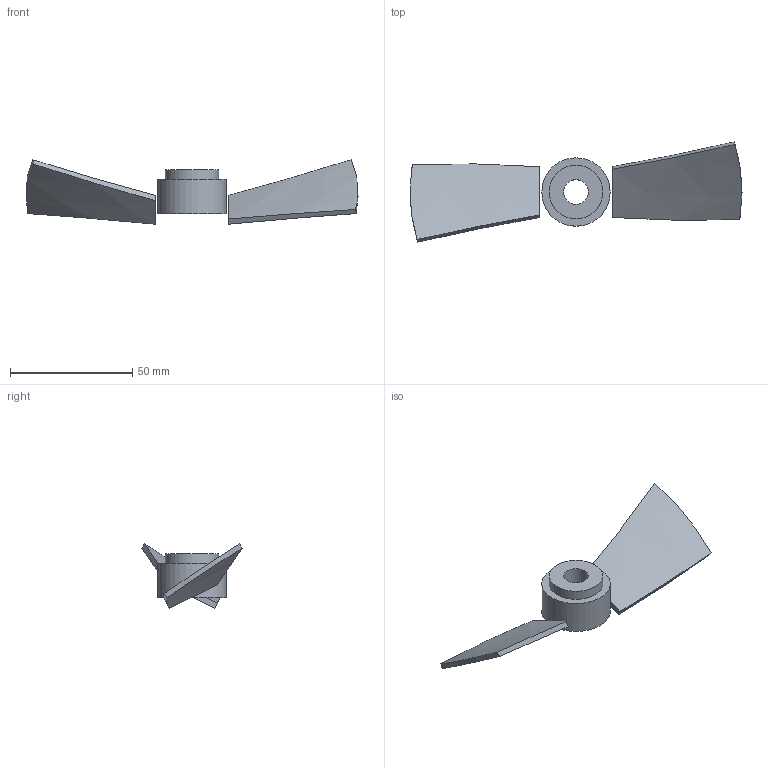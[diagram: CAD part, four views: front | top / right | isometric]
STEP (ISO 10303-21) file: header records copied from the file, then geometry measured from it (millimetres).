
FILE_DESCRIPTION(('Open CASCADE Model'),'2;1');
FILE_NAME('Open CASCADE Shape Model','2026-10-27T17:05:23',('Author'),( 'Open CASCADE'),'Open CASCADE STEP processor 8.0','build123d', 'Unknown');
FILE_SCHEMA(('AUTOMOTIVE_DESIGN { 1 0 10303 214 1 1 1 1 }'));
Length unit declared in the file: millimetre
Products named in the file (1): COMPOUND
Bounding box: 136 x 41.12 x 26.44 mm (x, y, z)
Volume: 15534.7 mm3; surface area: 10131 mm2
Topology: 3 solids, 3 shells, 18 faces, 33 edges, 22 vertices
Faces by surface type: bspline 8, plane 5, cylinder 5
Full cylindrical faces by diameter (mm): 10 x1, 22 x1, 28 x1
Entity records: 1138 total; most frequent: CARTESIAN_POINT 516, DIRECTION 79, ORIENTED_EDGE 66, PCURVE 66, DEFINITIONAL_REPRESENTATION 66, B_SPLINE_CURVE_WITH_KNOTS 48, LINE 39, VECTOR 39
